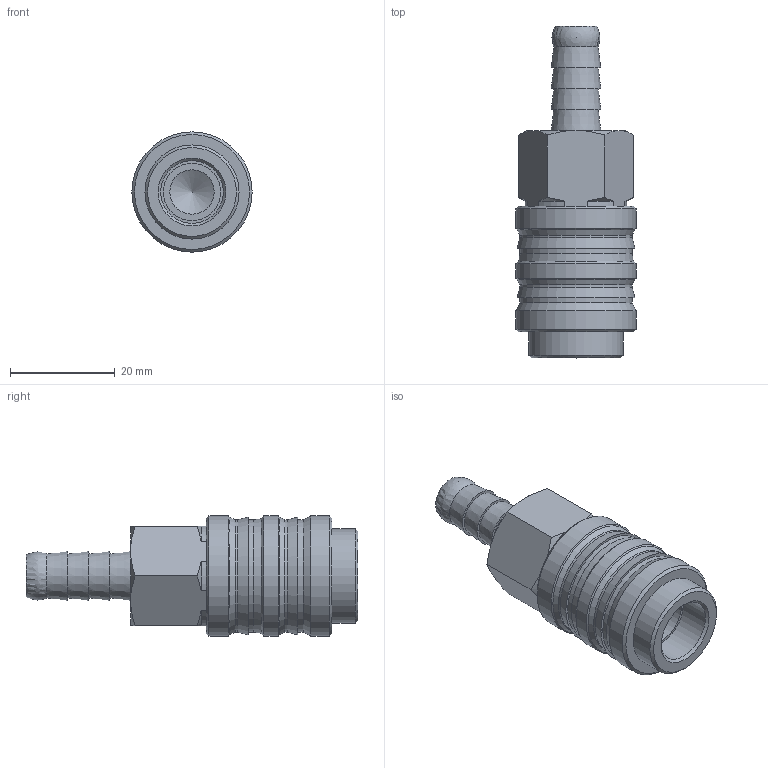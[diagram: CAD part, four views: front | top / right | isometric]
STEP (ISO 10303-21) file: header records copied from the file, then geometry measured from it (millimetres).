
FILE_DESCRIPTION(/* description */ (''),/* implementation_level */ '2;1');
FILE_NAME(/* name */ 'S:\_Tecnico\ArchivioUT\_Disegni3D ingombri\DISEGNI 3D per ingombri\GD\GD400009.stp',/* time_stamp */ '2022-05-06T11:36:49+02:00',/* author */ ('UfficioTecnico'),/* organization */ (''),/* preprocessor_version */ 'ST-DEVELOPER v18.1',/* originating_system */ 'Autodesk Inventor 2022',/* authorisation */ '');
FILE_SCHEMA (('AUTOMOTIVE_DESIGN { 1 0 10303 214 3 1 1 }'));
Length unit declared in the file: millimetre
Products named in the file (1): GD400009
Bounding box: 23 x 63.5 x 23 mm (x, y, z)
Volume: 13334.3 mm3; surface area: 5919.5 mm2
Topology: 1 solids, 1 shells, 69 faces, 152 edges, 97 vertices
Faces by surface type: cone 30, plane 20, cylinder 18, sphere 1
Full cylindrical faces by diameter (mm): 6.5 x1, 8.5 x1, 11 x1, 12 x1, 18 x1, 21.5 x4, 23 x3
Entity records: 1915 total; most frequent: CARTESIAN_POINT 364, DIRECTION 336, ORIENTED_EDGE 298, EDGE_CURVE 149, AXIS2_PLACEMENT_3D 141, VERTEX_POINT 97, EDGE_LOOP 84, CIRCLE 71
